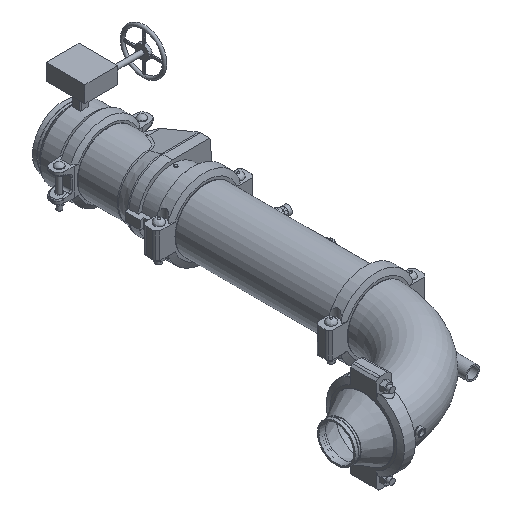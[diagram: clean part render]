
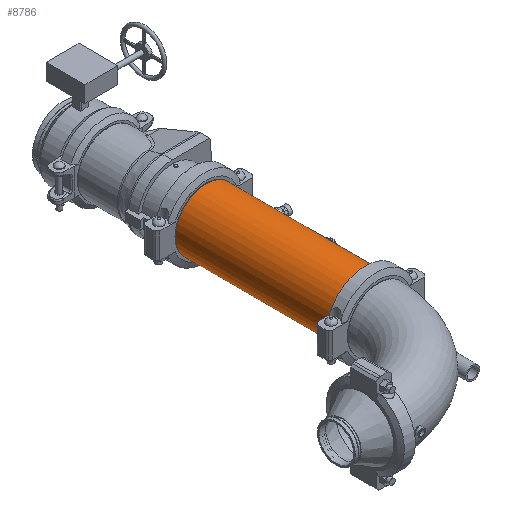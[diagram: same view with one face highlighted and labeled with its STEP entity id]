
A CAD part, isometric view. The second image highlights one B-rep face of the part: STEP entity #8786.
In plain terms, the highlighted cylindrical face has radius 136.525 mm (diameter 273.05 mm), a full revolution.
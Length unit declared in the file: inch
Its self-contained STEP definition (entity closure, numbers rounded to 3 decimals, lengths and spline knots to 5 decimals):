
#264=LINE('',#13277,#902);
#902=VECTOR('',#10573,5.375);
#1540=CYLINDRICAL_SURFACE('',#9517,5.375);
#1813=FACE_OUTER_BOUND('',#2310,.T.);
#2310=EDGE_LOOP('',(#5506,#5507,#5508,#5509,#5510,#5511));
#2907=CIRCLE('',#9515,5.375);
#2908=CIRCLE('',#9516,5.375);
#2909=CIRCLE('',#9518,5.375);
#2910=CIRCLE('',#9519,5.375);
#3394=VERTEX_POINT('',#13268);
#3395=VERTEX_POINT('',#13269);
#3396=VERTEX_POINT('',#13273);
#3397=VERTEX_POINT('',#13274);
#4244=EDGE_CURVE('',#3394,#3395,#2907,.T.);
#4245=EDGE_CURVE('',#3395,#3394,#2908,.T.);
#4246=EDGE_CURVE('',#3396,#3397,#2909,.T.);
#4247=EDGE_CURVE('',#3397,#3396,#2910,.T.);
#4248=EDGE_CURVE('',#3397,#3395,#264,.T.);
#5506=ORIENTED_EDGE('',*,*,#4246,.F.);
#5507=ORIENTED_EDGE('',*,*,#4247,.F.);
#5508=ORIENTED_EDGE('',*,*,#4248,.T.);
#5509=ORIENTED_EDGE('',*,*,#4245,.T.);
#5510=ORIENTED_EDGE('',*,*,#4244,.T.);
#5511=ORIENTED_EDGE('',*,*,#4248,.F.);
#8786=ADVANCED_FACE('',(#1813),#1540,.T.);
#9515=AXIS2_PLACEMENT_3D('',#13270,#10563,#10564);
#9516=AXIS2_PLACEMENT_3D('',#13271,#10565,#10566);
#9517=AXIS2_PLACEMENT_3D('',#13272,#10567,#10568);
#9518=AXIS2_PLACEMENT_3D('',#13275,#10569,#10570);
#9519=AXIS2_PLACEMENT_3D('',#13276,#10571,#10572);
#10563=DIRECTION('center_axis',(1.,0.,0.));
#10564=DIRECTION('ref_axis',(0.,0.,-1.));
#10565=DIRECTION('center_axis',(1.,0.,0.));
#10566=DIRECTION('ref_axis',(0.,0.,-1.));
#10567=DIRECTION('center_axis',(1.,0.,0.));
#10568=DIRECTION('ref_axis',(0.,1.,0.));
#10569=DIRECTION('center_axis',(1.,0.,0.));
#10570=DIRECTION('ref_axis',(0.,0.,-1.));
#10571=DIRECTION('center_axis',(1.,0.,0.));
#10572=DIRECTION('ref_axis',(0.,0.,-1.));
#10573=DIRECTION('',(-1.,0.,0.));
#13268=CARTESIAN_POINT('',(-13.7935,5.375,0.));
#13269=CARTESIAN_POINT('',(-13.7935,-5.375,0.));
#13270=CARTESIAN_POINT('Origin',(-13.7935,0.,0.));
#13271=CARTESIAN_POINT('Origin',(-13.7935,0.,0.));
#13272=CARTESIAN_POINT('Origin',(0.,0.,0.));
#13273=CARTESIAN_POINT('',(13.7935,5.375,0.));
#13274=CARTESIAN_POINT('',(13.7935,-5.375,0.));
#13275=CARTESIAN_POINT('Origin',(13.7935,0.,0.));
#13276=CARTESIAN_POINT('Origin',(13.7935,0.,0.));
#13277=CARTESIAN_POINT('',(0.,-5.375,0.));
